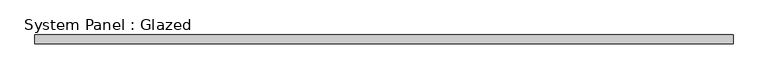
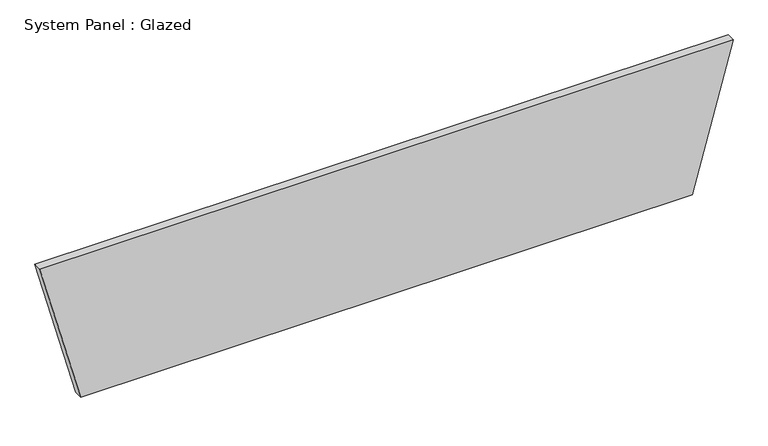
"""IFC4 building model written with IfcOpenShell, lengths in millimetres: plate geometry, System Panel : Glazed."""

from ifc_helpers import new_model, si_unit, frame, origin, place, context, project, spatial, polyline, outline, extrude, source, transform, mapped, element, save


def system_panel_glazed_2b717ddf(model_context):
    return source(origin(), model_context, "Body", "SweptSolid", [
        extrude(outline(polyline([(0.0, -902.7164343), (0.0, 902.7164343), (441.1288699, 1022.9408926), (441.1288699, -1022.9408926), (0.0, -902.7164343)])), frame((0.0, 19.05, 0.0), z_axis=(0.0, 1.0, 0.0), x_axis=(0.0, 0.0, 1.0)), (0.0, 0.0, 1.0), 25.4),
    ])


if __name__ == "__main__":
    model = new_model("IFC4")
    model_context = context("Model", 3, world=origin())
    ifc_project = project(units=[si_unit("LENGTHUNIT", "METRE", prefix="MILLI")], contexts=[model_context])
    site = spatial("IfcSite", under=ifc_project)
    building = spatial("IfcBuilding", under=site)
    placement = place(None, origin())
    system_panel_glazed_shape = system_panel_glazed_2b717ddf(model_context)
    element("IfcPlate", 1, ObjectType="System Panel : Glazed", at=placement, inside=building, context=model_context, shape_type="MappedRepresentation", body=[
        mapped(system_panel_glazed_shape, transform((0.0, 0.0, 0.0), x_axis=(1.0, 0.0, 0.0), y_axis=(0.0, 1.0, 0.0), z_axis=(0.0, 0.0, 1.0))),
    ])
    save(model, "model.ifc")
